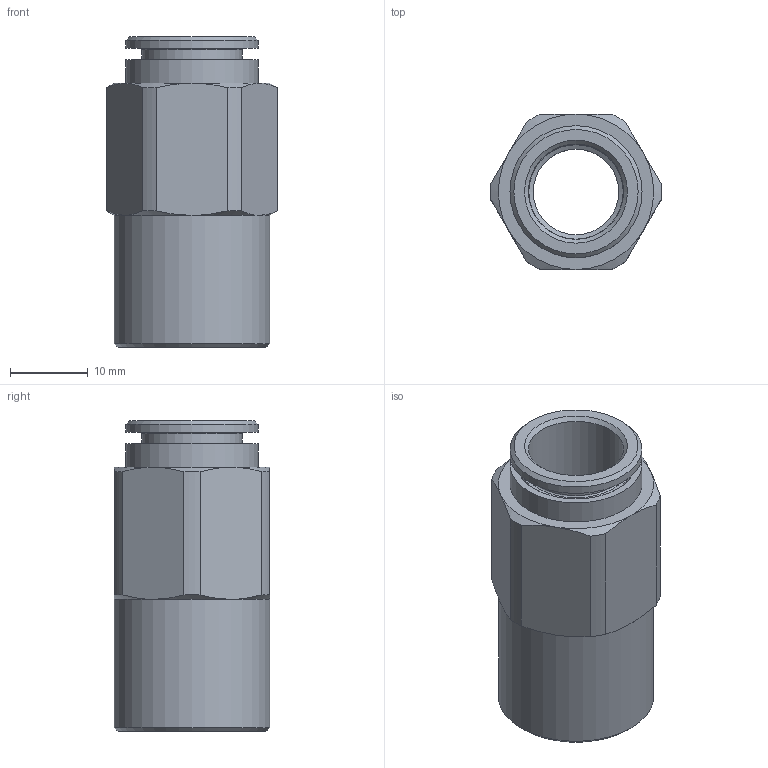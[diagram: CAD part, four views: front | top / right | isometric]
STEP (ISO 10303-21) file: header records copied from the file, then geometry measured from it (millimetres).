
FILE_DESCRIPTION(/* description */ (''),/* implementation_level */ '2;1');
FILE_NAME(/* name */ 'V200212_IPSO_02_FKM_12_38_09.02.2017',/* time_stamp */ '2017-02-09T10:12:42+01:00',/* author */ (''),/* organization */ (''),/* preprocessor_version */ 'ST-DEVELOPER v16.5',/* originating_system */ 'HiCAD 2016 2102.1 Build 498',/* authorisation */ '');
FILE_SCHEMA (('AUTOMOTIVE_DESIGN { 1 0 10303 214 1 1 1 1 }'));
Length unit declared in the file: millimetre
Products named in the file (3): Root; R200212; ONLINE_DR12-4
Assembly tree (2 placements, depth 2):
  Root
    R200212
    ONLINE_DR12-4
Bounding box: 21.99 x 20 x 40 mm (x, y, z)
Volume: 6516 mm3; surface area: 5643.4 mm2
Topology: 2 solids, 2 shells, 54 faces, 113 edges, 68 vertices
Faces by surface type: cone 20, cylinder 17, plane 15, torus 2
Full cylindrical faces by diameter (mm): 11 x1, 12.15 x1, 12.25 x1, 12.9 x1, 13 x1, 14.2 x1, 14.5 x1, 14.95 x1, 17 x2, 20 x1
Entity records: 2284 total; most frequent: DIRECTION 282, CARTESIAN_POINT 212, PRESENTATION_STYLE_ASSIGNMENT 180, COLOUR_RGB 180, DRAUGHTING_PRE_DEFINED_CURVE_FONT 178, CURVE_STYLE 178, OVER_RIDING_STYLED_ITEM 178, ORIENTED_EDGE 178
